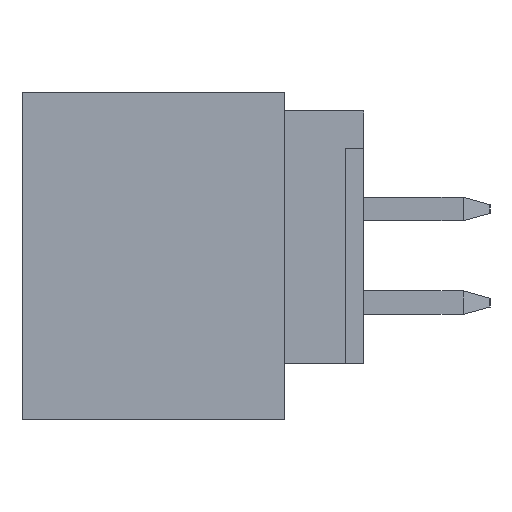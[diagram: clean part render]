
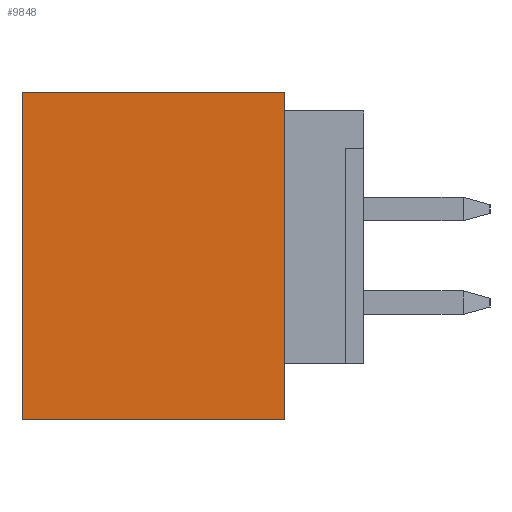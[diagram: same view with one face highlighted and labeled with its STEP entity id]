
A CAD part, left-side view. The second image highlights one B-rep face of the part: STEP entity #9848.
In plain terms, the highlighted planar face has unit normal (-1, 0, 0).
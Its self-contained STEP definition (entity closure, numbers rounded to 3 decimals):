
#1=DIRECTION('',(0.,-1.,0.));
#2=VECTOR('',#1,7.11);
#3=CARTESIAN_POINT('',(-25.4,3.555,-4.445));
#4=LINE('',#3,#2);
#17=DIRECTION('',(0.,0.,1.));
#18=VECTOR('',#17,8.89);
#19=CARTESIAN_POINT('',(-25.4,3.555,-4.445));
#20=LINE('',#19,#18);
#6317=DIRECTION('',(0.,0.,1.));
#6318=VECTOR('',#6317,8.89);
#6319=CARTESIAN_POINT('',(-25.4,-3.555,-4.445));
#6320=LINE('',#6319,#6318);
#7374=DIRECTION('',(0.,-1.,0.));
#7375=VECTOR('',#7374,7.11);
#7376=CARTESIAN_POINT('',(-25.4,3.555,4.445));
#7377=LINE('',#7376,#7375);
#7558=CARTESIAN_POINT('',(-25.4,3.555,-4.445));
#7559=CARTESIAN_POINT('',(-25.4,-3.555,-4.445));
#7560=VERTEX_POINT('',#7558);
#7561=VERTEX_POINT('',#7559);
#7566=CARTESIAN_POINT('',(-25.4,3.555,4.445));
#7567=CARTESIAN_POINT('',(-25.4,-3.555,4.445));
#7568=VERTEX_POINT('',#7566);
#7569=VERTEX_POINT('',#7567);
#9834=CARTESIAN_POINT('',(-25.4,3.555,-4.445));
#9835=DIRECTION('',(-1.,0.,0.));
#9836=DIRECTION('',(0.,-1.,0.));
#9837=AXIS2_PLACEMENT_3D('',#9834,#9835,#9836);
#9838=PLANE('',#9837);
#9839=ORIENTED_EDGE('',*,*,#9823,.F.);
#9841=ORIENTED_EDGE('',*,*,#9840,.T.);
#9843=ORIENTED_EDGE('',*,*,#9842,.T.);
#9845=ORIENTED_EDGE('',*,*,#9844,.F.);
#9846=EDGE_LOOP('',(#9839,#9841,#9843,#9845));
#9847=FACE_OUTER_BOUND('',#9846,.F.);
#9848=ADVANCED_FACE('',(#9847),#9838,.T.);
#9823=EDGE_CURVE('',#7560,#7561,#4,.T.);
#9840=EDGE_CURVE('',#7560,#7568,#20,.T.);
#9842=EDGE_CURVE('',#7568,#7569,#7377,.T.);
#9844=EDGE_CURVE('',#7561,#7569,#6320,.T.);
